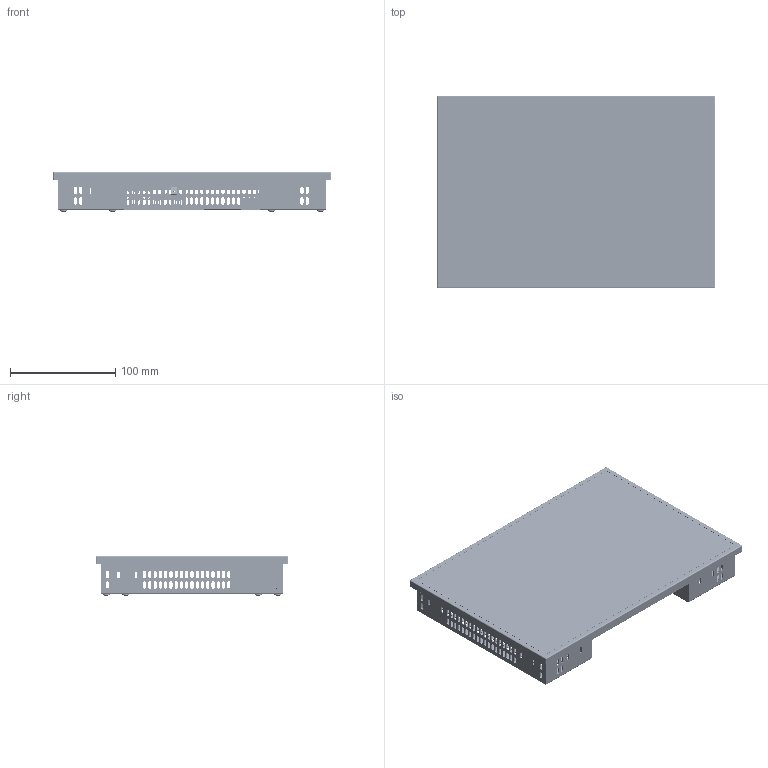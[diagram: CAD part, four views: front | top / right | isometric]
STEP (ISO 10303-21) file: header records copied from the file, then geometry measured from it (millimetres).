
FILE_DESCRIPTION (( 'STEP AP214' ), '1' );
FILE_NAME ('ETT1064 01-230-1064 20220203.STEP', '2022-02-03T13:11:47', ( 'Windows-Benutzer' ), ( '' ), 'SwSTEP 2.0', 'SolidWorks 2020', '' );
FILE_SCHEMA (( 'AUTOMOTIVE_DESIGN' ));
Length unit declared in the file: millimetre
Products named in the file (14): 3030203202 10,1 Zoll Glasfront+kap.Touch+COF T101SSS-SF0031-LEC0004-CG0022 Higgstec_Tail gebogen; so_m3_6; 3030203262 Lichtleiter Bivar PLPC2-100 (ETTXX34); 3030301081 Linsenflanschkopfschraube M3x06 ISO7380-2 TX_0304055923 Button head socket screw ISO 7380 M4x35; ETT1064 01-230-1064 20220203; 05322 Steckerblech ETT1064; ZM1909-4411-11 Alufront TP1061_Support-Daten; 05322 Gehäuse ETT1064; ZM1909-4414-10 Dichtungsset TP1061; ZM1909-4414-10 Dichtungsstreifen lang TP1061; ZM1909-4414-10 Dichtungsstreifen kurz TP1061; 3030203202 10,1 Zoll Glasfront+kap.Touch+COF T101SSS-SF0031-LEC0004-CG0022 Higgstec_Support-Daten
Assembly tree (26 placements, depth 3):
  ETT1064 01-230-1064 20220203
    ZM1909-4411-11 Alufront TP1061_Support-Daten
      ZM1909-4411-11 Alufront TP1061_Support-Daten
    05322 Gehäuse ETT1064
      05322 Gehäuse ETT1064
      05322 Steckerblech ETT1064
      so_m3_6  x4
    ZM1909-4414-10 Dichtungsset TP1061
      ZM1909-4414-10 Dichtungsstreifen lang TP1061  x2
      ZM1909-4414-10 Dichtungsstreifen kurz TP1061  x2
    3030203262 Lichtleiter Bivar PLPC2-100 (ETTXX34)  x2
    3030203202 10,1 Zoll Glasfront+kap.Touch+COF T101SSS-SF0031-LEC0004-CG0022 Higgstec_Support-Daten
      3030203202 10,1 Zoll Glasfront+kap.Touch+COF T101SSS-SF0031-LEC0004-CG0022 Higgstec_Tail gebogen
    3030301081 Linsenflanschkopfschraube M3x06 ISO7380-2 TX_0304055923 Button head socket screw ISO 7380 M4x35  x8
Bounding box: 264 x 183 x 37.7 mm (x, y, z)
Volume: 188666.5 mm3; surface area: 342680 mm2
Topology: 28 solids, 28 shells, 3949 faces, 11281 edges, 7416 vertices
Faces by surface type: plane 1901, cylinder 1872, torus 64, cone 60, bspline 48, sphere 4
Entity records: 121830 total; most frequent: CARTESIAN_POINT 21879, DIRECTION 20490, ORIENTED_EDGE 20464, EDGE_CURVE 10232, AXIS2_PLACEMENT_3D 6852, VECTOR 6786, LINE 6786, VERTEX_POINT 6771
